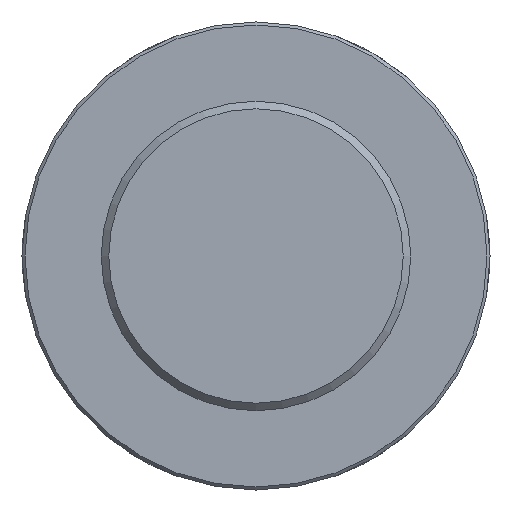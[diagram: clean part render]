
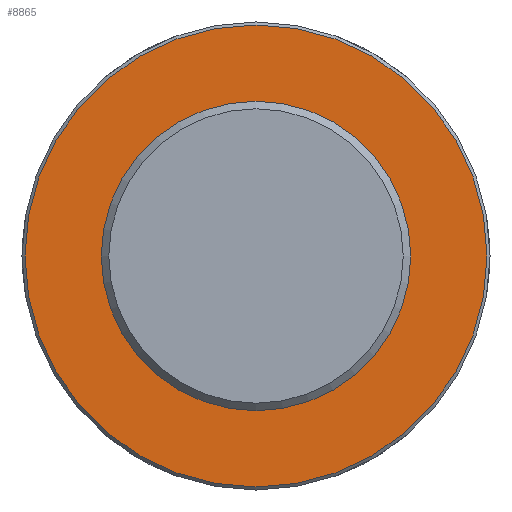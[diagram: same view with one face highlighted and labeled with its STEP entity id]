
A CAD part, front view. The second image highlights one B-rep face of the part: STEP entity #8865.
In plain terms, the highlighted planar face has unit normal (0, -1, 0) as drawn and (0, 1, 0) by its records, which use the part's own axes.
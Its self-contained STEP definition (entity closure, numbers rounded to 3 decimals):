
#73=CIRCLE('',#9237,153.);
#1226=FACE_OUTER_BOUND('',#1773,.T.);
#1773=EDGE_LOOP('',(#8095));
#4305=VERTEX_POINT('',#15893);
#5573=EDGE_CURVE('',#4305,#4305,#73,.T.);
#8095=ORIENTED_EDGE('',*,*,#5573,.F.);
#8392=PLANE('',#9240);
#8865=ADVANCED_FACE('',(#1226),#8392,.T.);
#9237=AXIS2_PLACEMENT_3D('',#15894,#10679,#10680);
#9240=AXIS2_PLACEMENT_3D('',#16132,#10685,#10686);
#10679=DIRECTION('center_axis',(0.,-1.,0.));
#10680=DIRECTION('ref_axis',(1.,0.,0.));
#10685=DIRECTION('center_axis',(0.,1.,0.));
#10686=DIRECTION('ref_axis',(0.,0.,1.));
#15893=CARTESIAN_POINT('',(-153.,145.,0.));
#15894=CARTESIAN_POINT('Origin',(0.,145.,0.));
#16132=CARTESIAN_POINT('Origin',(0.,145.,0.));
